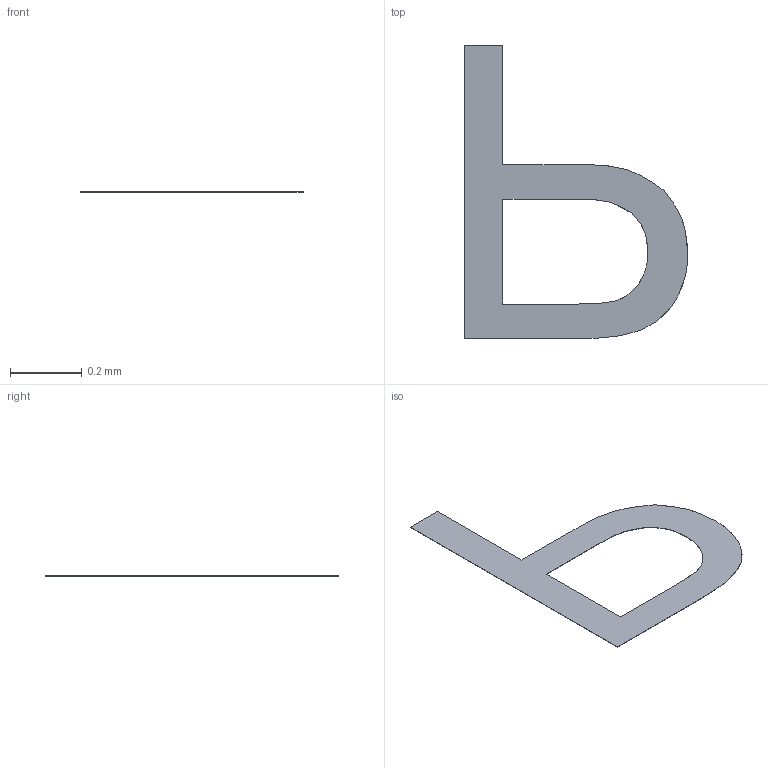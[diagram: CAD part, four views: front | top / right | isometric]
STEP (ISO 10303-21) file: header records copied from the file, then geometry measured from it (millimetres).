
FILE_DESCRIPTION(/* description */ ('STEP AP242 Edition 2','CAx-IF Rec.Pracs.---Representation and Presentation of Product Manufacturing Information (PMI)---4.0---2014-10-13','CAx-IF Rec.Pracs.---3D Tessellated Geometry---0.4---2014-09-14','2;1','CAx-IF Rec.Pracs.---User Defined Attributes---1.5---2016-08-15'),/* implementation_level */ '2;1');
FILE_NAME(/* name */ 'Drone Layout - Surface 345',/* time_stamp */ '2026-10-04T22:22:56Z',/* author */ (''),/* organization */ (''),/* preprocessor_version */ 'ST-DEVELOPER v20',/* originating_system */ 'ONSHAPE BY PTC INC, 1.221',/* authorisation */ ' ');
FILE_SCHEMA (('AP242_MANAGED_MODEL_BASED_3D_ENGINEERING_MIM_LF { 1 0 10303 442 3 1 4 }'));
Length unit declared in the file: metre
Products named in the file (1): VL53L0X:1__Body29
Bounding box: 0.62 x 0.82 x 0 mm (x, y, z)
Volume: 0 mm3; surface area: 0.4 mm2
Topology: 1 solids, 1 shells, 21 faces, 57 edges, 38 vertices
Faces by surface type: bspline 11, plane 10
Entity records: 771 total; most frequent: CARTESIAN_POINT 297, ORIENTED_EDGE 114, EDGE_CURVE 57, DIRECTION 57, VERTEX_POINT 38, LINE 35, VECTOR 35, EDGE_LOOP 23
